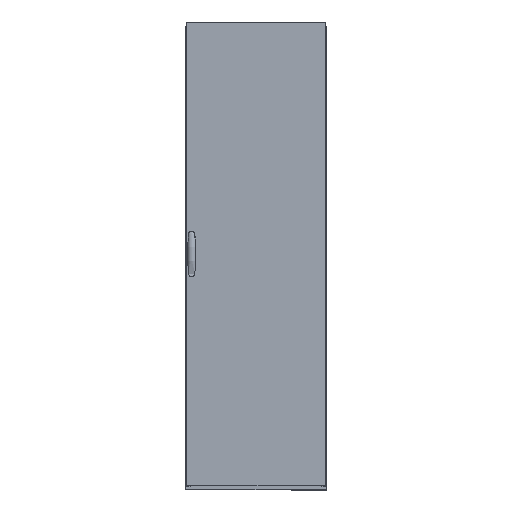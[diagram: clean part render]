
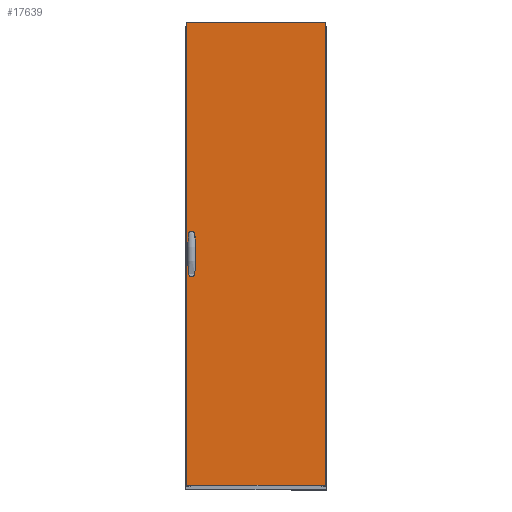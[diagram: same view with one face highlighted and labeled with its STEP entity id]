
A CAD part, top view. The second image highlights one B-rep face of the part: STEP entity #17639.
In plain terms, the highlighted planar face has unit normal (0, 0, 1) as drawn and (0, 0, -1) by its records, which use the part's own axes.
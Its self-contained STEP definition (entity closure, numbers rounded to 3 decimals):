
#275=CIRCLE('',#19626,2.6);
#276=CIRCLE('',#19627,2.6);
#2355=ORIENTED_EDGE('',*,*,#6417,.T.);
#2356=ORIENTED_EDGE('',*,*,#6418,.T.);
#2357=ORIENTED_EDGE('',*,*,#6419,.T.);
#2358=ORIENTED_EDGE('',*,*,#6420,.T.);
#2359=ORIENTED_EDGE('',*,*,#6421,.T.);
#2360=ORIENTED_EDGE('',*,*,#6422,.T.);
#2361=ORIENTED_EDGE('',*,*,#6423,.T.);
#2362=ORIENTED_EDGE('',*,*,#6424,.T.);
#2363=ORIENTED_EDGE('',*,*,#6425,.T.);
#2364=ORIENTED_EDGE('',*,*,#6426,.T.);
#2365=ORIENTED_EDGE('',*,*,#6427,.T.);
#2366=ORIENTED_EDGE('',*,*,#6428,.T.);
#2367=ORIENTED_EDGE('',*,*,#6429,.T.);
#2368=ORIENTED_EDGE('',*,*,#6430,.T.);
#2369=ORIENTED_EDGE('',*,*,#6431,.T.);
#2370=ORIENTED_EDGE('',*,*,#6432,.T.);
#2371=ORIENTED_EDGE('',*,*,#6433,.T.);
#2372=ORIENTED_EDGE('',*,*,#6434,.F.);
#2373=ORIENTED_EDGE('',*,*,#6435,.F.);
#2374=ORIENTED_EDGE('',*,*,#6436,.T.);
#2375=ORIENTED_EDGE('',*,*,#6437,.T.);
#2376=ORIENTED_EDGE('',*,*,#6438,.T.);
#6417=EDGE_CURVE('',#8602,#8603,#10444,.T.);
#6418=EDGE_CURVE('',#8603,#8604,#10445,.T.);
#6419=EDGE_CURVE('',#8604,#8605,#10446,.T.);
#6420=EDGE_CURVE('',#8605,#8606,#10447,.T.);
#6421=EDGE_CURVE('',#8606,#8607,#10448,.T.);
#6422=EDGE_CURVE('',#8607,#8608,#10449,.T.);
#6423=EDGE_CURVE('',#8608,#8609,#10450,.T.);
#6424=EDGE_CURVE('',#8609,#8610,#10451,.T.);
#6425=EDGE_CURVE('',#8610,#8611,#10452,.T.);
#6426=EDGE_CURVE('',#8611,#8612,#10453,.T.);
#6427=EDGE_CURVE('',#8612,#8613,#10454,.T.);
#6428=EDGE_CURVE('',#8613,#8614,#10455,.T.);
#6429=EDGE_CURVE('',#8614,#8615,#10456,.T.);
#6430=EDGE_CURVE('',#8615,#8616,#10457,.T.);
#6431=EDGE_CURVE('',#8616,#8617,#10458,.T.);
#6432=EDGE_CURVE('',#8617,#8602,#10459,.T.);
#6433=EDGE_CURVE('',#8618,#8619,#10460,.T.);
#6434=EDGE_CURVE('',#8620,#8619,#10461,.T.);
#6435=EDGE_CURVE('',#8621,#8620,#10462,.T.);
#6436=EDGE_CURVE('',#8621,#8618,#10463,.T.);
#6437=EDGE_CURVE('',#8622,#8622,#275,.T.);
#6438=EDGE_CURVE('',#8623,#8623,#276,.T.);
#8602=VERTEX_POINT('',#27122);
#8603=VERTEX_POINT('',#27123);
#8604=VERTEX_POINT('',#27125);
#8605=VERTEX_POINT('',#27127);
#8606=VERTEX_POINT('',#27129);
#8607=VERTEX_POINT('',#27131);
#8608=VERTEX_POINT('',#27133);
#8609=VERTEX_POINT('',#27135);
#8610=VERTEX_POINT('',#27137);
#8611=VERTEX_POINT('',#27139);
#8612=VERTEX_POINT('',#27141);
#8613=VERTEX_POINT('',#27143);
#8614=VERTEX_POINT('',#27145);
#8615=VERTEX_POINT('',#27147);
#8616=VERTEX_POINT('',#27149);
#8617=VERTEX_POINT('',#27151);
#8618=VERTEX_POINT('',#27154);
#8619=VERTEX_POINT('',#27155);
#8620=VERTEX_POINT('',#27157);
#8621=VERTEX_POINT('',#27159);
#8622=VERTEX_POINT('',#27162);
#8623=VERTEX_POINT('',#27164);
#10444=LINE('',#27121,#12624);
#10445=LINE('',#27124,#12625);
#10446=LINE('',#27126,#12626);
#10447=LINE('',#27128,#12627);
#10448=LINE('',#27130,#12628);
#10449=LINE('',#27132,#12629);
#10450=LINE('',#27134,#12630);
#10451=LINE('',#27136,#12631);
#10452=LINE('',#27138,#12632);
#10453=LINE('',#27140,#12633);
#10454=LINE('',#27142,#12634);
#10455=LINE('',#27144,#12635);
#10456=LINE('',#27146,#12636);
#10457=LINE('',#27148,#12637);
#10458=LINE('',#27150,#12638);
#10459=LINE('',#27152,#12639);
#10460=LINE('',#27153,#12640);
#10461=LINE('',#27156,#12641);
#10462=LINE('',#27158,#12642);
#10463=LINE('',#27160,#12643);
#12624=VECTOR('',#22169,1000.);
#12625=VECTOR('',#22170,1000.);
#12626=VECTOR('',#22171,1000.);
#12627=VECTOR('',#22172,1000.);
#12628=VECTOR('',#22173,1000.);
#12629=VECTOR('',#22174,1000.);
#12630=VECTOR('',#22175,1000.);
#12631=VECTOR('',#22176,1000.);
#12632=VECTOR('',#22177,1000.);
#12633=VECTOR('',#22178,1000.);
#12634=VECTOR('',#22179,1000.);
#12635=VECTOR('',#22180,1000.);
#12636=VECTOR('',#22181,1000.);
#12637=VECTOR('',#22182,1000.);
#12638=VECTOR('',#22183,1000.);
#12639=VECTOR('',#22184,1000.);
#12640=VECTOR('',#22185,1000.);
#12641=VECTOR('',#22186,1000.);
#12642=VECTOR('',#22187,1000.);
#12643=VECTOR('',#22188,1000.);
#14517=EDGE_LOOP('',(#2355,#2356,#2357,#2358,#2359,#2360,#2361,#2362,#2363,
#2364,#2365,#2366,#2367,#2368,#2369,#2370));
#14518=EDGE_LOOP('',(#2371,#2372,#2373,#2374));
#14519=EDGE_LOOP('',(#2375));
#14520=EDGE_LOOP('',(#2376));
#15715=FACE_BOUND('',#14517,.T.);
#15716=FACE_BOUND('',#14518,.T.);
#15717=FACE_BOUND('',#14519,.T.);
#15718=FACE_BOUND('',#14520,.T.);
#16743=PLANE('',#19625);
#17639=ADVANCED_FACE('',(#15715,#15716,#15717,#15718),#16743,.F.);
#19625=AXIS2_PLACEMENT_3D('',#27120,#22167,#22168);
#19626=AXIS2_PLACEMENT_3D('',#27161,#22189,#22190);
#19627=AXIS2_PLACEMENT_3D('',#27163,#22191,#22192);
#22167=DIRECTION('',(0.,0.,1.));
#22168=DIRECTION('',(1.,0.,0.));
#22169=DIRECTION('',(0.,-1.,0.));
#22170=DIRECTION('',(0.342,-0.94,0.));
#22171=DIRECTION('',(1.,0.,0.));
#22172=DIRECTION('',(0.,1.,0.));
#22173=DIRECTION('',(1.,0.,0.));
#22174=DIRECTION('',(0.,-1.,0.));
#22175=DIRECTION('',(1.,0.,0.));
#22176=DIRECTION('',(0.342,0.94,0.));
#22177=DIRECTION('',(0.,1.,0.));
#22178=DIRECTION('',(-0.342,0.94,0.));
#22179=DIRECTION('',(-1.,0.,0.));
#22180=DIRECTION('',(0.,-1.,0.));
#22181=DIRECTION('',(-1.,0.,0.));
#22182=DIRECTION('',(0.,1.,0.));
#22183=DIRECTION('',(-1.,0.,0.));
#22184=DIRECTION('',(-0.342,-0.94,0.));
#22185=DIRECTION('',(-1.,0.,0.));
#22186=DIRECTION('',(0.,-1.,0.));
#22187=DIRECTION('',(-1.,0.,0.));
#22188=DIRECTION('',(0.,-1.,0.));
#22189=DIRECTION('',(0.,0.,1.));
#22190=DIRECTION('',(1.,0.,0.));
#22191=DIRECTION('',(0.,0.,1.));
#22192=DIRECTION('',(1.,0.,0.));
#27120=CARTESIAN_POINT('',(296.5,1982.,-16.8));
#27121=CARTESIAN_POINT('',(262.95,1056.256,-16.8));
#27122=CARTESIAN_POINT('',(262.95,1056.256,-16.8));
#27123=CARTESIAN_POINT('',(262.95,925.744,-16.8));
#27124=CARTESIAN_POINT('',(262.95,925.744,-16.8));
#27125=CARTESIAN_POINT('',(264.95,920.25,-16.8));
#27126=CARTESIAN_POINT('',(264.95,920.25,-16.8));
#27127=CARTESIAN_POINT('',(270.2,920.25,-16.8));
#27128=CARTESIAN_POINT('',(270.2,920.25,-16.8));
#27129=CARTESIAN_POINT('',(270.2,928.,-16.8));
#27130=CARTESIAN_POINT('',(270.2,928.,-16.8));
#27131=CARTESIAN_POINT('',(281.2,928.,-16.8));
#27132=CARTESIAN_POINT('',(281.2,928.,-16.8));
#27133=CARTESIAN_POINT('',(281.2,920.25,-16.8));
#27134=CARTESIAN_POINT('',(281.2,920.25,-16.8));
#27135=CARTESIAN_POINT('',(286.45,920.25,-16.8));
#27136=CARTESIAN_POINT('',(286.45,920.25,-16.8));
#27137=CARTESIAN_POINT('',(288.45,925.744,-16.8));
#27138=CARTESIAN_POINT('',(288.45,925.744,-16.8));
#27139=CARTESIAN_POINT('',(288.45,1056.256,-16.8));
#27140=CARTESIAN_POINT('',(288.45,1056.256,-16.8));
#27141=CARTESIAN_POINT('',(286.45,1061.75,-16.8));
#27142=CARTESIAN_POINT('',(286.45,1061.75,-16.8));
#27143=CARTESIAN_POINT('',(281.2,1061.75,-16.8));
#27144=CARTESIAN_POINT('',(281.2,1061.75,-16.8));
#27145=CARTESIAN_POINT('',(281.2,1054.,-16.8));
#27146=CARTESIAN_POINT('',(281.2,1054.,-16.8));
#27147=CARTESIAN_POINT('',(270.2,1054.,-16.8));
#27148=CARTESIAN_POINT('',(270.2,1054.,-16.8));
#27149=CARTESIAN_POINT('',(270.2,1061.75,-16.8));
#27150=CARTESIAN_POINT('',(270.2,1061.75,-16.8));
#27151=CARTESIAN_POINT('',(264.95,1061.75,-16.8));
#27152=CARTESIAN_POINT('',(264.95,1061.75,-16.8));
#27153=CARTESIAN_POINT('',(296.5,0.,-16.8));
#27154=CARTESIAN_POINT('',(296.5,0.,-16.8));
#27155=CARTESIAN_POINT('',(-296.5,0.,-16.8));
#27156=CARTESIAN_POINT('',(-296.5,1982.,-16.8));
#27157=CARTESIAN_POINT('',(-296.5,1982.,-16.8));
#27158=CARTESIAN_POINT('',(296.5,1982.,-16.8));
#27159=CARTESIAN_POINT('',(296.5,1982.,-16.8));
#27160=CARTESIAN_POINT('',(296.5,1982.,-16.8));
#27161=CARTESIAN_POINT('',(275.7,1061.,-16.8));
#27162=CARTESIAN_POINT('',(278.3,1061.,-16.8));
#27163=CARTESIAN_POINT('',(275.7,921.,-16.8));
#27164=CARTESIAN_POINT('',(278.3,921.,-16.8));
